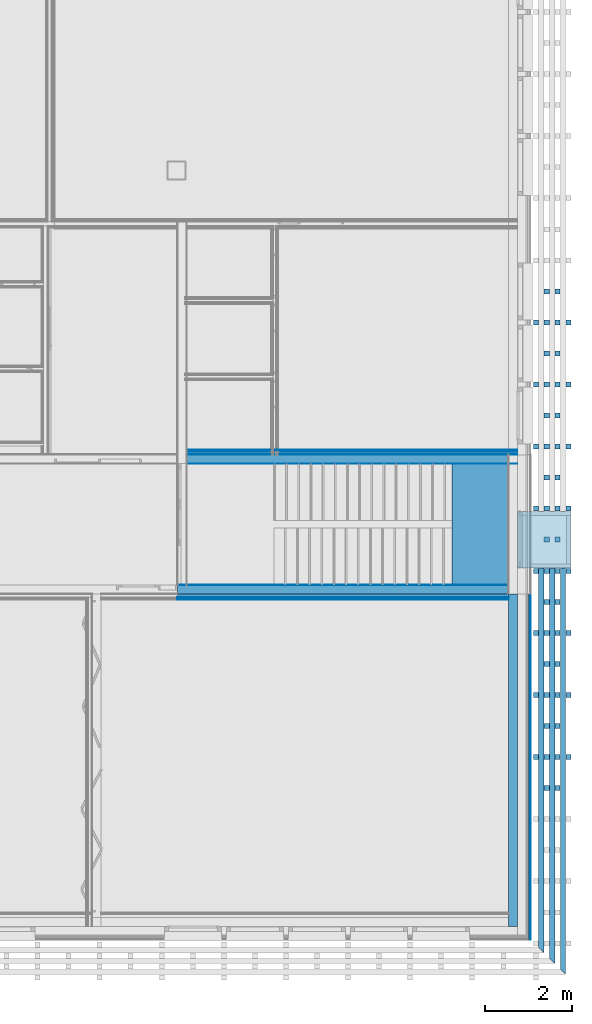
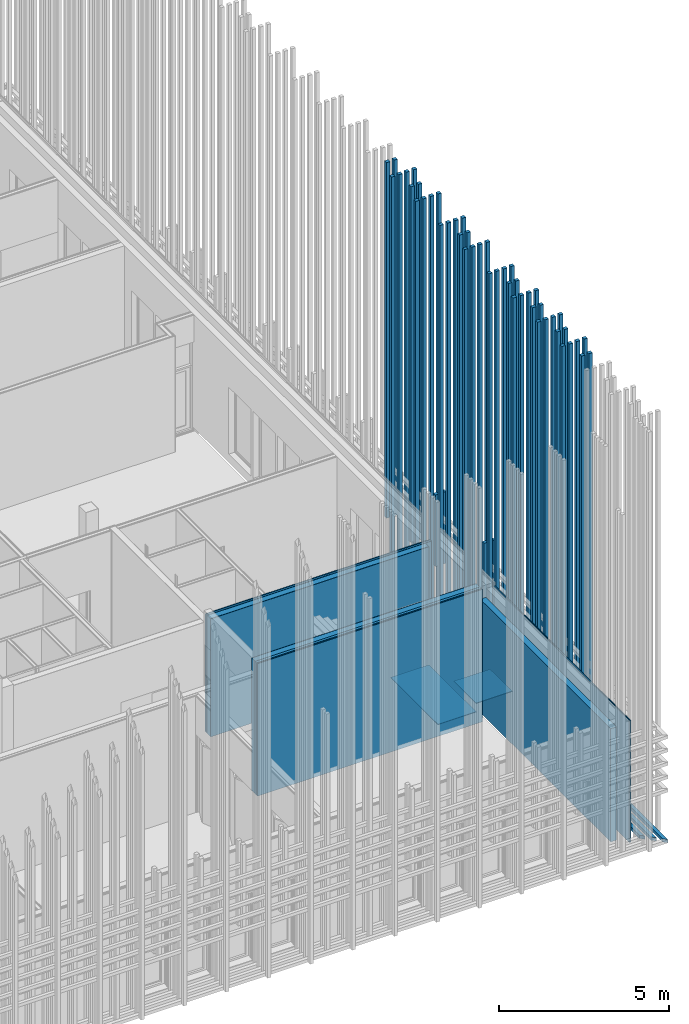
# One storey, part 203 of 260: 20 discrete accessories, 17 building element parts, 3 elements without a shape of their own.
"""IFC2X3 building model written with IfcOpenShell, lengths in millimetres."""

from ifc_helpers import new_model, entity, si_unit, converted_unit, derived_unit, money_unit, direction, frame, origin_with_axes, place, context, subcontext, project, spatial, faceted_brep, material, material_list, type_object, element, aggregate, save


model = new_model("IFC2X3")

# Units and contexts
model_context = context("Model", 3, precision=0.01, world=origin_with_axes(), true_north=direction((0.0, 1.0)))
body_context = subcontext(model_context, "Body", "Model", "MODEL_VIEW")
ifc_project = project(units=[si_unit("LENGTHUNIT", "METRE", prefix="MILLI"), si_unit("AREAUNIT", "SQUARE_METRE"), si_unit("VOLUMEUNIT", "CUBIC_METRE"), converted_unit("PLANEANGLEUNIT", "DEGREE", entity("IfcPlaneAngleMeasure", 0.0174532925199), si_unit("PLANEANGLEUNIT", "RADIAN"), dimensions=[0, 0, 0, 0, 0, 0, 0]), money_unit("EUR"), converted_unit("TIMEUNIT", "Year", entity("IfcTimeMeasure", 31556926.0), si_unit("TIMEUNIT", "SECOND"), dimensions=[0, 0, 1, 0, 0, 0, 0]), si_unit("MASSUNIT", "GRAM", prefix="KILO"), si_unit("THERMODYNAMICTEMPERATUREUNIT", "DEGREE_CELSIUS"), si_unit("LUMINOUSINTENSITYUNIT", "LUMEN"), si_unit("ENERGYUNIT", "JOULE", prefix="MEGA"), derived_unit("THERMALCONDUCTANCEUNIT", [(si_unit("POWERUNIT", "WATT"), 1), (si_unit("LENGTHUNIT", "METRE"), -1), (si_unit("THERMODYNAMICTEMPERATUREUNIT", "KELVIN"), -1)]), derived_unit("SPECIFICHEATCAPACITYUNIT", [(si_unit("ENERGYUNIT", "JOULE"), 1), (si_unit("MASSUNIT", "GRAM", prefix="KILO"), -1), (si_unit("THERMODYNAMICTEMPERATUREUNIT", "KELVIN"), -1)]), derived_unit("MASSDENSITYUNIT", [(si_unit("MASSUNIT", "GRAM", prefix="KILO"), 1), (si_unit("VOLUMEUNIT", "CUBIC_METRE"), -1)])], contexts=[model_context])

# Site, building, storey
site_placement = place(None, origin_with_axes())
site = spatial("IfcSite", under=ifc_project, at=site_placement, Name="Kolde pst 67a", CompositionType="ELEMENT")
building_placement = place(site_placement, origin_with_axes())
building = spatial("IfcBuilding", under=site, at=building_placement, Name="Riigigümnaasium", CompositionType="ELEMENT")
storey_placement = place(building_placement, origin_with_axes())
storey = spatial("IfcBuildingStorey", under=building, at=storey_placement, Name="1. korrus", CompositionType="ELEMENT", Elevation=0.0)

# Discrete accessories
ifc_material_1 = material(Name="_VÄLISVIIMISTLUS - sõrmjätkatud puitprussid 120x115mm, liitekohad vähemärgatavad, Platowood sõrmjätkatud kuusk või samaväärne; eeltöödeldud tuletõkkevõõbaga, tuletundlikkus B-s1, d0, Woodsafe Exterior WFX™ või samaväärne; kinnitused vastavalt EK osale")
ifc_material_list_1 = material_list([ifc_material_1, ifc_material_1, ifc_material_1, ifc_material_1])
discrete_accessory_type_1 = type_object("IfcDiscreteAccessoryType", Name="120 4-ne vertikaalne 870 x 115")
for number, where, z_axis, x_axis in (
    (1, (84792.043936, 6787.53379118, 280.0), (0.0, 0.0, 1.0), (-0.999999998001, 6.32316306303e-05, 0.0)),
    (2, (84792.043936, 5357.53703369, 280.0), (0.0, 0.0, 1.0), (-0.999999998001, 6.32316306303e-05, 0.0)),
    (3, (84792.0288058, 3927.5412155, 280.0), (0.0, 0.0, 1.0), (-0.999999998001, 6.32316306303e-05, 0.0)),
    (4, (84792.043936, 8217.53198492, 280.0), (0.0, 0.0, 1.0), (-0.999999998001, 6.32316306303e-05, 0.0)),
    (5, (84792.0363482, 9647.5319854, 280.0), (0.0, 0.0, 1.0), (-0.999999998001, 6.32316306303e-05, 0.0)),
    (6, (84792.0363482, 11077.5319873, 280.0), (0.0, 0.0, 1.0), (-0.999999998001, 6.32316306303e-05, 0.0)),
    (7, (84792.0363482, 12507.5319873, 280.0), (0.0, 0.0, 1.0), (-0.999999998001, 6.32316306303e-05, 0.0)),
    (8, (84792.0363482, 13937.5305919, 280.0), (0.0, 0.0, 1.0), (-0.999999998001, 6.32316306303e-05, 0.0)),
):
    element("IfcDiscreteAccessory", number, at=place(storey_placement, frame(where, z_axis=z_axis, x_axis=x_axis)), inside=storey, type_object=discrete_accessory_type_1, material=ifc_material_list_1, Name="Päikesevarjestus", context=body_context, shape_type="Brep", body=[
        faceted_brep([(-133.0, -70.0, 0.0), (-13.0, -70.0, 0.0), (-13.0, -70.0, 15050.0), (-133.0, -70.0, 15050.0), (-133.0, 45.0, 0.0), (-13.0, 45.0, 0.0), (-13.0, 45.0, 15050.0), (-133.0, 45.0, 15050.0)], [[[0, 1, 2, 3]], [[0, 4, 5, 1]], [[1, 5, 6, 2]], [[3, 2, 6, 7]], [[4, 0, 3, 7]], [[5, 4, 7, 6]]]),
        faceted_brep([(-383.0, -70.0, 0.0), (-263.0, -70.0, 0.0), (-263.0, -70.0, 15050.0), (-383.0, -70.0, 15050.0), (-383.0, 45.0, 0.0), (-263.0, 45.0, 0.0), (-263.0, 45.0, 15050.0), (-383.0, 45.0, 15050.0)], [[[0, 1, 2, 3]], [[0, 4, 5, 1]], [[1, 5, 6, 2]], [[3, 2, 6, 7]], [[4, 0, 3, 7]], [[5, 4, 7, 6]]]),
        faceted_brep([(-633.0, -70.0, 0.0), (-513.0, -70.0, 0.0), (-513.0, -70.0, 15050.0), (-633.0, -70.0, 15050.0), (-633.0, 45.0, 0.0), (-513.0, 45.0, 0.0), (-513.0, 45.0, 15050.0), (-633.0, 45.0, 15050.0)], [[[0, 1, 2, 3]], [[0, 4, 5, 1]], [[1, 5, 6, 2]], [[3, 2, 6, 7]], [[4, 0, 3, 7]], [[5, 4, 7, 6]]]),
        faceted_brep([(-883.0, -70.0, 0.0), (-763.0, -70.0, 0.0), (-763.0, -70.0, 15050.0), (-883.0, -70.0, 15050.0), (-883.0, 45.0, 0.0), (-763.0, 45.0, 0.0), (-763.0, 45.0, 15050.0), (-883.0, 45.0, 15050.0)], [[[0, 1, 2, 3]], [[0, 4, 5, 1]], [[1, 5, 6, 2]], [[3, 2, 6, 7]], [[4, 0, 3, 7]], [[5, 4, 7, 6]]]),
    ])
ifc_material_list_2 = material_list([ifc_material_1, ifc_material_1, ifc_material_1])
discrete_accessory_type_2 = type_object("IfcDiscreteAccessoryType", Name="120 1+paiksekaitse 3 tk  620 x 115")
discrete_accessory_1_placement = place(storey_placement, frame((84805.0413713, -325.007137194, 352.5), z_axis=(0.0, 0.0, 1.0), x_axis=(1.0, -1.233012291e-07, 0.0)))
element("IfcDiscreteAccessory", 9, at=discrete_accessory_1_placement, inside=storey, type_object=discrete_accessory_type_2, material=ifc_material_list_2, Name="Päikesevarjestus", context=body_context, shape_type="Brep", body=[
    faceted_brep([(625.0, 8614.94121437, 45.0), (625.0, -624.999962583, 45.0), (745.0, -744.999955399, 45.0), (745.0, 8614.94121437, 45.0), (625.0, 8614.94121437, -70.0), (625.0, -624.999962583, -70.0), (745.0, -744.999955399, -70.0), (745.0, 8614.94121437, -70.0)], [[[0, 1, 2, 3]], [[4, 5, 1, 0]], [[5, 6, 2, 1]], [[3, 2, 6, 7]], [[4, 0, 3, 7]], [[7, 6, 5, 4]]]),
    faceted_brep([(375.0, 8614.94121437, 45.0), (375.0, -374.99997755, 45.0), (495.0, -494.999970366, 45.0), (495.0, 8614.94121437, 45.0), (375.0, 8614.94121437, -70.0), (375.0, -374.99997755, -70.0), (495.0, -494.999970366, -70.0), (495.0, 8614.94121437, -70.0)], [[[0, 1, 2, 3]], [[4, 5, 1, 0]], [[5, 6, 2, 1]], [[3, 2, 6, 7]], [[4, 0, 3, 7]], [[7, 6, 5, 4]]]),
    faceted_brep([(125.0, 8614.94121437, 45.0), (125.0, -124.999992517, 45.0), (245.0, -244.999985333, 45.0), (245.0, 8614.94121437, 45.0), (125.0, 8614.94121437, -70.0), (125.0, -124.999992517, -70.0), (245.0, -244.999985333, -70.0), (245.0, 8614.94121437, -70.0)], [[[0, 1, 2, 3]], [[4, 5, 1, 0]], [[5, 6, 2, 1]], [[3, 2, 6, 7]], [[4, 0, 3, 7]], [[7, 6, 5, 4]]]),
])
ifc_material_list_3 = material_list([ifc_material_1, ifc_material_1])
discrete_accessory_type_3 = type_object("IfcDiscreteAccessoryType", Name="1+paiksekaitse 3 370 x 115")
for number, where, z_axis, x_axis in (
    (10, (85772.0410105, 3284.99496982, 280.0), (0.0, 0.0, 1.0), (-1.0, 0.0, 0.0)),
    (11, (85772.0410105, 4714.99431369, 280.0), (0.0, 0.0, 1.0), (-1.0, 0.0, 0.0)),
    (12, (85772.0410105, 6144.99013188, 280.0), (0.0, 0.0, 1.0), (-1.0, 0.0, 0.0)),
    (13, (85772.0410105, 7574.98688985, 280.0), (0.0, 0.0, 1.0), (-1.0, 0.0, 0.0)),
    (14, (85772.0333434, 10434.9927819, 280.0), (0.0, 0.0, 1.0), (-1.0, 0.0, 0.0)),
):
    element("IfcDiscreteAccessory", number, at=place(storey_placement, frame(where, z_axis=z_axis, x_axis=x_axis)), inside=storey, type_object=discrete_accessory_type_3, material=ifc_material_list_3, Name="Päikesevarjestus", context=body_context, shape_type="Brep", body=[
        faceted_brep([(467.0, 117.5, 0.0), (347.0, 117.5, 0.0), (347.0, 117.5, 15050.0), (467.0, 117.5, 15050.0), (467.0, 2.5, 0.0), (347.0, 2.5, 0.0), (347.0, 2.5, 15050.0), (467.0, 2.5, 15050.0)], [[[0, 1, 2, 3]], [[0, 4, 5, 1]], [[1, 5, 6, 2]], [[3, 2, 6, 7]], [[4, 0, 3, 7]], [[5, 4, 7, 6]]]),
        faceted_brep([(717.0, 117.5, 0.0), (597.0, 117.5, 0.0), (597.0, 117.5, 15050.0), (717.0, 117.5, 15050.0), (717.0, 2.5, 0.0), (597.0, 2.5, 0.0), (597.0, 2.5, 15050.0), (717.0, 2.5, 15050.0)], [[[0, 1, 2, 3]], [[0, 4, 5, 1]], [[1, 5, 6, 2]], [[3, 2, 6, 7]], [[4, 0, 3, 7]], [[5, 4, 7, 6]]]),
    ])
for number, where, z_axis, x_axis in (
    (15, (85772.0333434, 13294.9927814, 2580.00014213), (0.0, 0.0, 1.0), (-1.0, 0.0, 0.0)),
    (16, (85772.0333434, 14724.9913884, 2580.00014213), (0.0, 0.0, 1.0), (-1.0, 0.0, 0.0)),
):
    element("IfcDiscreteAccessory", number, at=place(storey_placement, frame(where, z_axis=z_axis, x_axis=x_axis)), inside=storey, type_object=discrete_accessory_type_3, material=ifc_material_list_3, Name="Päikesevarjestus", context=body_context, shape_type="Brep", body=[
        faceted_brep([(467.0, 117.5, 0.0), (347.0, 117.5, 0.0), (347.0, 117.5, 12749.9998579), (467.0, 117.5, 12749.9998579), (467.0, 2.5, 0.0), (347.0, 2.5, 0.0), (347.0, 2.5, 12749.9998579), (467.0, 2.5, 12749.9998579)], [[[0, 1, 2, 3]], [[0, 4, 5, 1]], [[1, 5, 6, 2]], [[3, 2, 6, 7]], [[4, 0, 3, 7]], [[5, 4, 7, 6]]]),
        faceted_brep([(717.0, 117.5, 0.0), (597.0, 117.5, 0.0), (597.0, 117.5, 12749.9998579), (717.0, 117.5, 12749.9998579), (717.0, 2.5, 0.0), (597.0, 2.5, 0.0), (597.0, 2.5, 12749.9998579), (717.0, 2.5, 12749.9998579)], [[[0, 1, 2, 3]], [[0, 4, 5, 1]], [[1, 5, 6, 2]], [[3, 2, 6, 7]], [[4, 0, 3, 7]], [[5, 4, 7, 6]]]),
    ])
for number, where, z_axis, x_axis in (
    (17, (85772.0333434, 11864.9885444, 2580.00014213), (0.0, 0.0, 1.0), (-1.0, 0.0, 0.0)),
    (18, (85772.0409312, 9004.98854445, 2580.00014213), (0.0, 0.0, 1.0), (-1.0, 0.0, 0.0)),
):
    element("IfcDiscreteAccessory", number, at=place(storey_placement, frame(where, z_axis=z_axis, x_axis=x_axis)), inside=storey, type_object=discrete_accessory_type_3, material=ifc_material_list_3, Name="Päikesevarjestus", context=body_context, shape_type="Brep", body=[
        faceted_brep([(467.0, 117.5, 0.0), (347.0, 117.5, 0.0), (347.0, 117.5, 2570.0), (467.0, 117.5, 2570.0), (467.0, 2.5, 0.0), (347.0, 2.5, 0.0), (347.0, 2.5, 2570.0), (467.0, 2.5, 2570.0)], [[[0, 1, 2, 3]], [[0, 4, 5, 1]], [[1, 5, 6, 2]], [[3, 2, 6, 7]], [[4, 0, 3, 7]], [[5, 4, 7, 6]]]),
        faceted_brep([(717.0, 117.5, 0.0), (597.0, 117.5, 0.0), (597.0, 117.5, 2570.0), (717.0, 117.5, 2570.0), (717.0, 2.5, 0.0), (597.0, 2.5, 0.0), (597.0, 2.5, 2570.0), (717.0, 2.5, 2570.0)], [[[0, 1, 2, 3]], [[0, 4, 5, 1]], [[1, 5, 6, 2]], [[3, 2, 6, 7]], [[4, 0, 3, 7]], [[5, 4, 7, 6]]]),
    ])
ifc_material_2 = material(Name="_METALL - teras")
discrete_accessory_type_4 = type_object("IfcDiscreteAccessoryType", Name="_METALL - teras 22")
discrete_accessory_2_placement = place(storey_placement, frame((82929.2190982, 7909.96837501, 0.0), z_axis=(0.0, 0.0, 1.0), x_axis=(1.0, 0.0, 0.0)))
element("IfcDiscreteAccessory", 19, at=discrete_accessory_2_placement, inside=storey, type_object=discrete_accessory_type_4, material=ifc_material_2, Name="süvistatud poritõkkesüsteem 22 mm vastavalt SA osale", context=body_context, shape_type="Brep", body=[
    faceted_brep([(0.0, 0.0, 0.0), (0.0, 0.0, -22.0), (1300.38811975, 0.0, -22.0), (1300.38811975, 0.0, 0.0), (0.0, 2780.01439089, 0.0), (0.0, 2780.01439089, -22.0), (1300.38811975, 2780.01439089, -22.0), (1300.38811975, 2780.01439089, 0.0)], [[[0, 1, 2, 3]], [[4, 5, 1, 0]], [[2, 1, 5, 6]], [[3, 2, 6, 7]], [[4, 0, 3, 7]], [[7, 6, 5, 4]]]),
])
discrete_accessory_3_placement = place(storey_placement, frame((84439.9993279, 9600.02357569, 0.0), z_axis=(0.0, 0.0, 1.0), x_axis=(1.0, 0.0, 0.0)))
element("IfcDiscreteAccessory", 20, at=discrete_accessory_3_placement, inside=storey, type_object=discrete_accessory_type_4, material=ifc_material_2, Name="30mm süvistatud roostevaba porirest betoonalusel vastavalt EK osale, kalle kaevu poole ≥1:80; resti silm 33x11mm, hambuline; porirest eemaldatav puhastuseks; vt joonist AR-7-207; sadevee kogumiseks resti all settepõhjaga restkaev, maapinnast -200mm kõrgusel, vesi koguneb sadeveetorustikku, vt VK osa", context=body_context, shape_type="Brep", body=[
    faceted_brep([(0.0, 0.0, 0.0), (0.0, 0.0, -22.0), (0.0, -1310.04742444, -22.0), (0.0, -1310.04742444, 0.0), (1231.33418625, 0.0, 0.0), (1231.33418625, 0.0, -22.0), (1231.33418625, -1310.04742444, -22.0), (1231.33418625, -1310.04742444, 0.0)], [[[0, 1, 2, 3]], [[4, 5, 1, 0]], [[2, 1, 5, 6]], [[3, 2, 6, 7]], [[4, 0, 3, 7]], [[7, 6, 5, 4]]]),
])

# Wall, building element parts
wall_type_1 = type_object("IfcWallType", Name="VS-CLT-20/1 512", PredefinedType="NOTDEFINED")
wall_1_placement = place(storey_placement, frame((84439.9993279, 40.0, 100.0), z_axis=(0.0, 0.0, 1.0), x_axis=(0.0, 1.0, 0.0)))
wall_1 = element("IfcWall", 21, at=wall_1_placement, inside=storey, type_object=wall_type_1, Name="Välissein")
ifc_material_3 = material(Name="_KANDETARIND - CLT ristkihtliimpuit vastavalt EK osale, CLT paigaldusvuugid teibitakse ROTHOBLAAS teibiga")
building_element_part_1_placement = place(wall_1_placement, origin_with_axes())
building_element_part_1 = element("IfcBuildingElementPart", 22, at=building_element_part_1_placement, material=ifc_material_3, Name="_KANDETARIND - CLT ristkihtliimpuit vastavalt EK osale, CLT paigaldusvuugid teibitakse ROTHOBLAAS teibiga", context=body_context, shape_type="Brep", body=[
    faceted_brep([(7659.9745996, 199.999999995, 4056.9), (7659.9736286, 0.0, 4056.9), (7659.9736286, 0.0, 0.0), (7659.9736286, 200.0, 0.0), (0.0, 0.0, 4056.9), (0.0, 200.0, 4056.9), (0.0, 0.0, 0.0), (0.0, 200.0, 0.0)], [[[0, 1, 2, 3]], [[4, 1, 0, 5]], [[1, 4, 6, 2]], [[7, 3, 2, 6]], [[5, 0, 3, 7]], [[4, 5, 7, 6]]]),
])
ifc_material_4 = material(Name="_KARKASS - puitroov 32x50mm horisontaalne, immutatud Driconi tulekaitsevahendiga või samaväärne, samm 600mm")
building_element_part_2_placement = place(wall_1_placement, origin_with_axes())
building_element_part_2 = element("IfcBuildingElementPart", 23, at=building_element_part_2_placement, material=ifc_material_4, Name="_KARKASS - puitroov 32x50mm horisontaalne, immutatud Driconi tulekaitsevahendiga või samaväärne, samm 600mm", context=body_context, shape_type="Brep", body=[
    faceted_brep([(7659.9736286, -262.0, 0.0), (7659.9736286, -294.0, 0.0), (-294.0, -294.0, 0.0), (-294.0, -262.0, 0.0), (7659.9736286, -262.0, 4370.0), (7659.9736286, -294.0, 4370.0), (-294.0, -294.0, 4370.0), (-294.0, -262.0, 4370.0)], [[[0, 1, 2, 3]], [[0, 4, 5, 1]], [[1, 5, 6, 2]], [[3, 2, 6, 7]], [[4, 0, 3, 7]], [[5, 4, 7, 6]]]),
])
ifc_material_5 = material(Name="_VÄLISVIIMISTLUS - vertikaalne voodrilaud, Platowood P01 profiil 18x140mm, kuusk; eeltöödeldud tuletõkkega mõlemad küljed, B-s1, d0, Woodsafe Exterior WFX™ või samaväärne")
building_element_part_3_placement = place(wall_1_placement, origin_with_axes())
building_element_part_3 = element("IfcBuildingElementPart", 24, at=building_element_part_3_placement, material=ifc_material_5, Name="_VÄLISVIIMISTLUS - vertikaalne voodrilaud, Platowood P01 profiil 18x140mm, kuusk; eeltöödeldud tuletõkkega mõlemad küljed, B-s1, d0, Woodsafe Exterior WFX™ või samaväärne", context=body_context, shape_type="Brep", body=[
    faceted_brep([(7659.9736286, -294.0, 0.0), (7659.9736286, -312.0, 0.0), (-312.0, -312.0, 0.0), (-312.0, -294.0, 0.0), (7659.9736286, -294.0, 4370.0), (7659.9736286, -312.0, 4370.0), (-312.0, -312.0, 4370.0), (-312.0, -294.0, 4370.0)], [[[0, 1, 2, 3]], [[0, 4, 5, 1]], [[1, 5, 6, 2]], [[3, 2, 6, 7]], [[4, 0, 3, 7]], [[5, 4, 7, 6]]]),
])
aggregate(wall_1, [building_element_part_1, building_element_part_2, building_element_part_3])

wall_type_2 = type_object("IfcWallType", Name="SS-RB-20/8_kipsil krohv roov 75+krohv 350", PredefinedType="NOTDEFINED")
wall_2_placement = place(storey_placement, frame((76609.9946975, 7900.0, -150.0), z_axis=(0.0, 0.0, 1.0), x_axis=(1.0, 0.0, 0.0)))
wall_2 = element("IfcWall", 25, at=wall_2_placement, inside=storey, type_object=wall_type_2, Name="Sisesein")
ifc_material_6 = material(Name="_VIIMISTLUSKIHT - viimistlus vastavalt SA osale")
building_element_part_4_placement = place(wall_2_placement, origin_with_axes())
building_element_part_4 = element("IfcBuildingElementPart", 26, at=building_element_part_4_placement, material=ifc_material_6, Name="_VIIMISTLUSKIHT - viimistlus vastavalt SA osale", context=body_context, shape_type="Brep", body=[
    faceted_brep([(7620.00463045, 10.0, 4750.0), (7620.00463045, 10.0, 250.0), (7629.97838155, 10.0, 250.0), (7629.97838155, 10.0, 0.0), (0.0, 10.0, 0.0), (0.0, 10.0, 50.0), (220.0, 10.0, 50.0), (220.0, 10.0, 150.0), (0.0, 10.0, 150.0), (0.0, 10.0, 3550.0), (220.0, 10.0, 3550.0), (220.0, 10.0, 4750.0), (7620.00463045, 0.0, 4750.0), (7620.00463045, 0.0, 250.0), (7629.97838155, 0.0, 250.0), (7629.97838155, 0.0, 0.0), (0.0, 0.0, 0.0), (0.0, 0.0, 50.0), (220.0, 0.0, 50.0), (220.0, 0.0, 150.0), (0.0, 0.0, 150.0), (0.0, 0.0, 3550.0), (220.0, 0.0, 3550.0), (220.0, 0.0, 4750.0)], [[[0, 1, 2, 3, 4, 5, 6, 7, 8, 9, 10, 11]], [[1, 0, 12, 13]], [[14, 2, 1, 13]], [[2, 14, 15, 3]], [[16, 4, 3, 15]], [[16, 17, 5, 4]], [[18, 6, 5, 17]], [[19, 7, 6, 18]], [[7, 19, 20, 8]], [[9, 8, 20, 21]], [[22, 10, 9, 21]], [[22, 23, 11, 10]], [[12, 0, 11, 23]], [[13, 12, 23, 22, 21, 20, 19, 18, 17, 16, 15, 14]]]),
])
ifc_material_7 = material(Name="_KANDETARIND - monteeritav raudbetoon vastavalt EK osale")
building_element_part_5_placement = place(wall_2_placement, origin_with_axes())
building_element_part_5 = element("IfcBuildingElementPart", 27, at=building_element_part_5_placement, material=ifc_material_7, Name="_KANDETARIND - monteeritav raudbetoon vastavalt EK osale", context=body_context, shape_type="Brep", body=[
    faceted_brep([(7620.00463045, 0.0, 4750.0), (7620.00463045, 0.0, 250.0), (7629.97838155, 0.0, 250.0), (7629.97838155, 0.0, 0.0), (0.0, 0.0, 0.0), (0.0, 0.0, 4750.0), (7620.00463045, -200.0, 4750.0), (7620.00463045, -200.0, 250.0), (7629.97838155, -200.0, 250.0), (7629.97838155, -200.0, 0.0), (0.0, -200.0, 0.0), (0.0, -200.0, 4750.0)], [[[0, 1, 2, 3, 4, 5]], [[1, 0, 6, 7]], [[8, 2, 1, 7]], [[2, 8, 9, 3]], [[10, 4, 3, 9]], [[11, 5, 4, 10]], [[6, 0, 5, 11]], [[7, 6, 11, 10, 9, 8]]]),
])
ifc_material_8 = material(Name="_KARKASS - eriprofiilkinnitus vastavalt sisemisele plaatviimistlusele")
building_element_part_6_placement = place(wall_2_placement, origin_with_axes())
building_element_part_6 = element("IfcBuildingElementPart", 28, at=building_element_part_6_placement, material=ifc_material_8, Name="_KARKASS - eriprofiilkinnitus vastavalt sisemisele plaatviimistlusele", context=body_context, shape_type="Brep", body=[
    faceted_brep([(7620.00463045, -200.0, 4750.0), (7620.00463045, -200.0, 250.0), (7629.97838155, -200.0, 250.0), (7629.97838155, -200.0, 0.0), (0.0, -200.0, 0.0), (0.0, -200.0, 4750.0), (7620.00463045, -200.026371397, 4750.0), (7620.00463045, -200.026371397, 250.0), (7629.97838155, -200.026371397, 250.0), (7629.97838155, -200.026371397, 4750.0), (7629.97838155, -285.0, 4750.0), (7629.97838155, -285.0, 0.0), (0.0, -285.0, 0.0), (0.0, -285.0, 4750.0)], [[[0, 1, 2, 3, 4, 5]], [[1, 0, 6, 7]], [[8, 2, 1, 7]], [[8, 9, 10, 11, 3, 2]], [[4, 3, 11, 12]], [[5, 4, 12, 13]], [[6, 0, 5, 13, 10, 9]], [[6, 9, 8, 7]], [[12, 11, 10, 13]]]),
])
ifc_material_9 = material(Name="_PLAATMATERJAL - tuletõkkekipsplaat, Knauf Red GKF või samaväärne")
building_element_part_7_placement = place(wall_2_placement, origin_with_axes())
building_element_part_7 = element("IfcBuildingElementPart", 29, at=building_element_part_7_placement, material=ifc_material_9, Name="_PLAATMATERJAL - tuletõkkekipsplaat, Knauf Red GKF või samaväärne", context=body_context, shape_type="Brep", body=[
    faceted_brep([(7629.97838155, -285.0, 0.0), (7629.97838155, -300.0, 0.0), (0.0, -300.0, 0.0), (0.0, -285.0, 0.0), (7629.97838155, -285.0, 4750.0), (7629.97838155, -300.0, 4750.0), (0.0, -300.0, 4750.0), (0.0, -285.0, 4750.0)], [[[0, 1, 2, 3]], [[0, 4, 5, 1]], [[1, 5, 6, 2]], [[3, 2, 6, 7]], [[4, 0, 3, 7]], [[5, 4, 7, 6]]]),
])
building_element_part_8_placement = place(wall_2_placement, origin_with_axes())
building_element_part_8 = element("IfcBuildingElementPart", 30, at=building_element_part_8_placement, material=ifc_material_9, Name="_PLAATMATERJAL - tuletõkkekipsplaat, Knauf Red GKF või samaväärne", context=body_context, shape_type="Brep", body=[
    faceted_brep([(7629.97838155, -300.0, 0.0), (7629.97838155, -315.0, 0.0), (0.0, -315.0, 0.0), (0.0, -300.0, 0.0), (7629.97838155, -300.0, 4750.0), (7629.97838155, -315.0, 4750.0), (0.0, -315.0, 4750.0), (0.0, -300.0, 4750.0)], [[[0, 1, 2, 3]], [[0, 4, 5, 1]], [[1, 5, 6, 2]], [[3, 2, 6, 7]], [[4, 0, 3, 7]], [[5, 4, 7, 6]]]),
])
building_element_part_9_placement = place(wall_2_placement, origin_with_axes())
building_element_part_9 = element("IfcBuildingElementPart", 31, at=building_element_part_9_placement, material=ifc_material_9, Name="_PLAATMATERJAL - tuletõkkekipsplaat, Knauf Red GKF või samaväärne", context=body_context, shape_type="Brep", body=[
    faceted_brep([(7629.97838155, -315.0, 0.0), (7629.97838155, -330.0, 0.0), (0.0, -330.0, 0.0), (0.0, -315.0, 0.0), (7629.97838155, -315.0, 4750.0), (7629.97838155, -330.0, 4750.0), (0.0, -330.0, 4750.0), (0.0, -315.0, 4750.0)], [[[0, 1, 2, 3]], [[0, 4, 5, 1]], [[1, 5, 6, 2]], [[3, 2, 6, 7]], [[4, 0, 3, 7]], [[5, 4, 7, 6]]]),
])
building_element_part_10_placement = place(wall_2_placement, origin_with_axes())
building_element_part_10 = element("IfcBuildingElementPart", 32, at=building_element_part_10_placement, material=ifc_material_6, Name="_VIIMISTLUSKIHT - viimistlus vastavalt SA osale", context=body_context, shape_type="Brep", body=[
    faceted_brep([(7629.97838155, -330.0, 0.0), (7629.97838155, -340.0, 0.0), (0.0, -340.0, 0.0), (0.0, -330.0, 0.0), (7629.97838155, -330.0, 4750.0), (7629.97838155, -340.0, 4750.0), (0.0, -340.0, 4750.0), (0.0, -330.0, 4750.0)], [[[0, 1, 2, 3]], [[0, 4, 5, 1]], [[1, 5, 6, 2]], [[3, 2, 6, 7]], [[4, 0, 3, 7]], [[5, 4, 7, 6]]]),
])
aggregate(wall_2, [building_element_part_4, building_element_part_5, building_element_part_6, building_element_part_7, building_element_part_8, building_element_part_9, building_element_part_10])

wall_type_3 = type_object("IfcWallType", Name="SS-RB-20/9_kipsil krohv+roov66 +krohv 325", PredefinedType="NOTDEFINED")
wall_3_placement = place(storey_placement, frame((76829.9946973, 10699.9619407, 0.0), z_axis=(0.0, 0.0, 1.0), x_axis=(1.0, 0.0, 0.0)))
wall_3 = element("IfcWall", 33, at=wall_3_placement, inside=storey, type_object=wall_type_3, Name="Sisesein")
building_element_part_11_placement = place(wall_3_placement, origin_with_axes())
building_element_part_11 = element("IfcBuildingElementPart", 34, at=building_element_part_11_placement, material=ifc_material_6, Name="_VIIMISTLUSKIHT - viimistlus vastavalt SA osale", context=body_context, shape_type="Brep", body=[
    faceted_brep([(7610.00463058, 306.0, 4230.0), (7610.00463058, 315.0, 4230.0), (0.0, 315.0, 4230.0), (0.0, 306.0, 4230.0), (7610.00463058, 306.0, 0.0), (7610.00463058, 315.0, 0.0), (0.0, 315.0, 0.0), (0.0, 306.0, 0.0)], [[[0, 1, 2, 3]], [[0, 4, 5, 1]], [[1, 5, 6, 2]], [[3, 2, 6, 7]], [[4, 0, 3, 7]], [[5, 4, 7, 6]]]),
])
building_element_part_12_placement = place(wall_3_placement, origin_with_axes())
building_element_part_12 = element("IfcBuildingElementPart", 35, at=building_element_part_12_placement, material=ifc_material_9, Name="_PLAATMATERJAL - tuletõkkekipsplaat, Knauf Red GKF või samaväärne", context=body_context, shape_type="Brep", body=[
    faceted_brep([(7610.00463058, 291.0, 4230.0), (7610.00463058, 306.0, 4230.0), (0.0, 306.0, 4230.0), (0.0, 291.0, 4230.0), (7610.00463058, 291.0, 0.0), (7610.00463058, 306.0, 0.0), (0.0, 306.0, 0.0), (0.0, 291.0, 0.0)], [[[0, 1, 2, 3]], [[0, 4, 5, 1]], [[1, 5, 6, 2]], [[3, 2, 6, 7]], [[4, 0, 3, 7]], [[5, 4, 7, 6]]]),
])
ifc_material_10 = material(Name="_PLAATMATERJAL - OSB3 plaat")
building_element_part_13_placement = place(wall_3_placement, origin_with_axes())
building_element_part_13 = element("IfcBuildingElementPart", 36, at=building_element_part_13_placement, material=ifc_material_10, Name="_PLAATMATERJAL - OSB3 plaat", context=body_context, shape_type="Brep", body=[
    faceted_brep([(7610.00463058, 276.0, 4230.0), (7610.00463058, 291.0, 4230.0), (0.0, 291.0, 4230.0), (0.0, 276.0, 4230.0), (7610.00463058, 276.0, 0.0), (7610.00463058, 291.0, 0.0), (0.0, 291.0, 0.0), (0.0, 276.0, 0.0)], [[[0, 1, 2, 3]], [[0, 4, 5, 1]], [[1, 5, 6, 2]], [[3, 2, 6, 7]], [[4, 0, 3, 7]], [[5, 4, 7, 6]]]),
])
ifc_material_11 = material(Name="_KARKASS - metallkarkass CW 66/35/06, samm 600, mineraalvill karkassi vahel")
building_element_part_14_placement = place(wall_3_placement, origin_with_axes())
building_element_part_14 = element("IfcBuildingElementPart", 37, at=building_element_part_14_placement, material=ifc_material_11, Name="_KARKASS - metallkarkass CW 66/35/06, samm 600, mineraalvill karkassi vahel", context=body_context, shape_type="Brep", body=[
    faceted_brep([(7610.00463058, 210.0, 4230.0), (7610.00463058, 276.0, 4230.0), (0.0, 276.0, 4230.0), (0.0, 210.0, 4230.0), (7610.00463058, 210.0, 0.0), (7610.00463058, 276.0, 0.0), (0.0, 276.0, 0.0), (0.0, 210.0, 0.0)], [[[0, 1, 2, 3]], [[0, 4, 5, 1]], [[1, 5, 6, 2]], [[3, 2, 6, 7]], [[4, 0, 3, 7]], [[5, 4, 7, 6]]]),
])
ifc_material_12 = material(Name="_ÕHKVAHE")
building_element_part_15_placement = place(wall_3_placement, origin_with_axes())
building_element_part_15 = element("IfcBuildingElementPart", 38, at=building_element_part_15_placement, material=ifc_material_12, Name="_ÕHKVAHE", context=body_context, shape_type="Brep", body=[
    faceted_brep([(0.0, 200.0, 4230.0), (7610.00463058, 200.0, 4230.0), (7610.00463058, 210.0, 4230.0), (0.0, 210.0, 4230.0), (0.0, 200.0, 0.0), (7610.00463058, 200.0, 0.0), (7610.00463058, 210.0, 0.0), (0.0, 210.0, 0.0)], [[[0, 1, 2, 3]], [[4, 5, 1, 0]], [[2, 1, 5, 6]], [[3, 2, 6, 7]], [[4, 0, 3, 7]], [[7, 6, 5, 4]]]),
])
building_element_part_16_placement = place(wall_3_placement, origin_with_axes())
building_element_part_16 = element("IfcBuildingElementPart", 39, at=building_element_part_16_placement, material=ifc_material_7, Name="_KANDETARIND - monteeritav raudbetoon vastavalt EK osale", context=body_context, shape_type="Brep", body=[
    faceted_brep([(7610.00463058, 200.00000003, 100.0), (7610.00463058, 200.0, 0.0), (0.0, 200.0, 0.0), (0.0, 200.0, 4230.0), (7400.00463058, 200.00000003, 4230.0), (7400.00463058, 200.00000003, 100.0), (7610.00463058, 0.0, 100.0), (7610.00463058, 0.0, 0.0), (0.0, 0.0, 0.0), (0.0, 0.0, 4230.0), (7400.00463058, 0.0, 4230.0), (7400.00463058, 0.0, 100.0)], [[[0, 1, 2, 3, 4, 5]], [[0, 6, 7, 1]], [[8, 2, 1, 7]], [[2, 8, 9, 3]], [[10, 4, 3, 9]], [[5, 4, 10, 11]], [[6, 0, 5, 11]], [[6, 11, 10, 9, 8, 7]]]),
])
building_element_part_17_placement = place(wall_3_placement, origin_with_axes())
building_element_part_17 = element("IfcBuildingElementPart", 40, at=building_element_part_17_placement, material=ifc_material_6, Name="_VIIMISTLUSKIHT - viimistlus vastavalt SA osale", context=body_context, shape_type="Brep", body=[
    faceted_brep([(7610.00463058, 0.0, 100.0), (7610.00463058, 0.0, 0.0), (0.0, 0.0, 0.0), (0.0, 0.0, 4230.0), (7400.00463058, 0.0, 4230.0), (7400.00463058, 0.0, 100.0), (7610.00463058, -10.0, 100.0), (7610.00463058, -10.0, 0.0), (0.0, -10.0, 0.0), (0.0, -10.0, 4230.0), (7400.00463058, -10.0, 4230.0), (7400.00463058, -10.0, 100.0)], [[[0, 1, 2, 3, 4, 5]], [[0, 6, 7, 1]], [[8, 2, 1, 7]], [[2, 8, 9, 3]], [[10, 4, 3, 9]], [[5, 4, 10, 11]], [[6, 0, 5, 11]], [[6, 11, 10, 9, 8, 7]]]),
])
aggregate(wall_3, [building_element_part_11, building_element_part_12, building_element_part_13, building_element_part_14, building_element_part_15, building_element_part_16, building_element_part_17])

save(model, "model.ifc")
